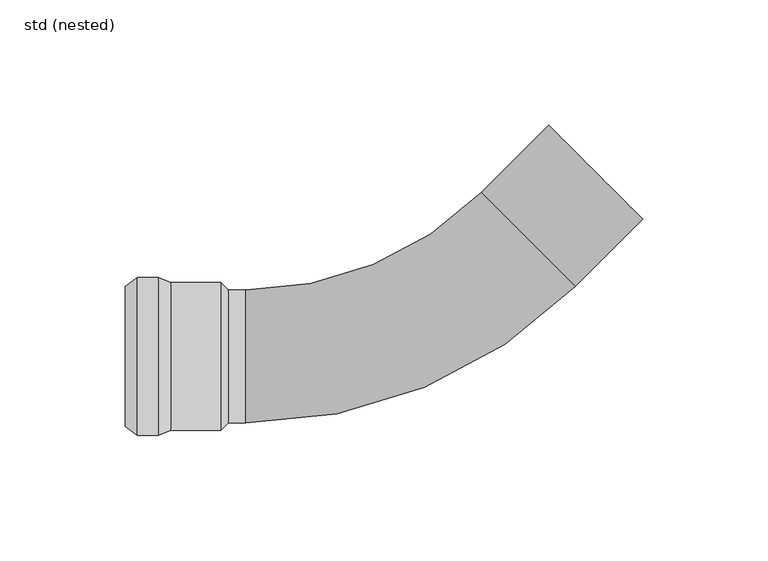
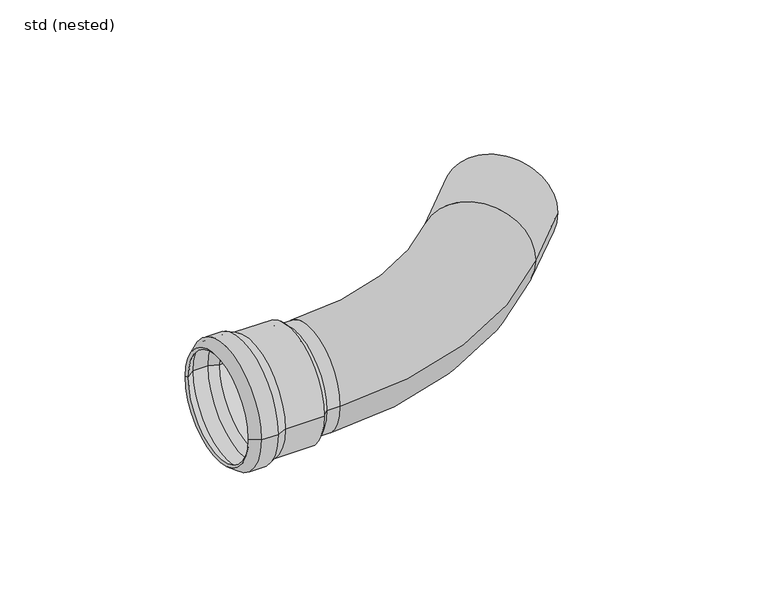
"""IFC4 building model written with IfcOpenShell, lengths in millimetres: pipe fitting geometry, ZZZ_do not use_PIF_ST_UN_GM-X pipe bend_ACO : std (nested)."""

from ifc_helpers import new_model, si_unit, point, frame, origin, place, context, project, spatial, polyline, circle_curve, ellipse_curve, trimmed, source, transform, mapped, element, save
from ifc_brep_helpers import plane_surface, cylinder_surface, revolved_surface, advanced_brep


def std_nested_89a7624e(model_context):
    return source(origin(), model_context, "Body", "AdvancedBrep", [
        advanced_brep(
        [(-100.8, 31.5, 0.0), (-100.8, -31.5, 0.0), (-109.2, -31.5, 0.0), (-109.2, 31.5, 0.0), (-96.0, 29.5, 0.0), (-96.0, -29.5, 0.0), (-114.0, -28.0, 0.0), (-114.0, 28.0, 0.0), (-76.0, 29.5, 0.0), (-76.0, -29.5, 0.0), (-73.0, 26.5, 0.0), (-73.0, -26.5, 0.0), (-76.0, 26.5, 0.0), (-76.0, -26.5, 0.0), (-96.3, 28.0, 0.0), (-96.3, -28.0, 0.0), (-76.0, -28.0, 0.0), (-76.0, 28.0, 0.0), (-101.1, 30.0, 0.0), (-101.1, -30.0, 0.0), (-108.7111977, 30.0, 0.0), (-108.7111977, -30.0, 0.0), (-113.1162418, 26.7879887, 0.0), (-113.1162418, -26.7879887, 0.0)],
        [
            (0, 1, circle_curve(frame((-100.8, 0.0, 0.0), z_axis=(-1.0, 0.0, 0.0), x_axis=(0.0, -1.0, 0.0)), 31.5)),
            (1, 2),
            (2, 3, circle_curve(frame((-109.2, 0.0, 0.0), z_axis=(1.0, 0.0, 0.0), x_axis=(0.0, -1.0, 0.0)), 31.5)),
            (3, 0),
            (1, 0, circle_curve(frame((-100.8, 0.0, 0.0), z_axis=(-1.0, 0.0, 0.0), x_axis=(0.0, -1.0, 0.0)), 31.5)),
            (3, 2, circle_curve(frame((-109.2, 0.0, 0.0), z_axis=(1.0, 0.0, 0.0), x_axis=(0.0, -1.0, 0.0)), 31.5)),
            (4, 5, circle_curve(frame((-96.0, 0.0, 0.0), z_axis=(-1.0, 0.0, 0.0), x_axis=(0.0, -1.0, 0.0)), 29.5)),
            (5, 1),
            (0, 4),
            (5, 4, circle_curve(frame((-96.0, 0.0, 0.0), z_axis=(-1.0, 0.0, 0.0), x_axis=(0.0, -1.0, 0.0)), 29.5)),
            (2, 6),
            (6, 7, circle_curve(frame((-114.0, 0.0, 0.0), z_axis=(1.0, 0.0, 0.0), x_axis=(0.0, -1.0, 0.0)), 28.0)),
            (7, 3),
            (7, 6, circle_curve(frame((-114.0, 0.0, 0.0), z_axis=(1.0, 0.0, 0.0), x_axis=(0.0, -1.0, 0.0)), 28.0)),
            (8, 9, circle_curve(frame((-76.0, 0.0, 0.0), z_axis=(-1.0, 0.0, 0.0), x_axis=(0.0, -1.0, 0.0)), 29.5)),
            (9, 5),
            (4, 8),
            (9, 8, circle_curve(frame((-76.0, 0.0, 0.0), z_axis=(-1.0, 0.0, 0.0), x_axis=(0.0, -1.0, 0.0)), 29.5)),
            (10, 11, circle_curve(frame((-73.0, 0.0, 0.0), z_axis=(-1.0, 0.0, 0.0), x_axis=(0.0, -1.0, 0.0)), 26.5)),
            (11, 9),
            (8, 10),
            (11, 10, circle_curve(frame((-73.0, 0.0, 0.0), z_axis=(-1.0, 0.0, 0.0), x_axis=(0.0, -1.0, 0.0)), 26.5)),
            (12, 13, circle_curve(frame((-76.0, 0.0, 0.0), z_axis=(-1.0, 0.0, 0.0), x_axis=(0.0, -1.0, 0.0)), 26.5)),
            (13, 11),
            (10, 12),
            (13, 12, circle_curve(frame((-76.0, 0.0, 0.0), z_axis=(-1.0, 0.0, 0.0), x_axis=(0.0, -1.0, 0.0)), 26.5)),
            (14, 15, circle_curve(frame((-96.3, 0.0, 0.0), z_axis=(-1.0, 0.0, 0.0), x_axis=(0.0, -1.0, 0.0)), 28.0)),
            (15, 16),
            (16, 17, circle_curve(frame((-76.0, 0.0, 0.0), z_axis=(1.0, 0.0, 0.0), x_axis=(0.0, -1.0, 0.0)), 28.0)),
            (17, 14),
            (15, 14, circle_curve(frame((-96.3, 0.0, 0.0), z_axis=(-1.0, 0.0, 0.0), x_axis=(0.0, -1.0, 0.0)), 28.0)),
            (17, 16, circle_curve(frame((-76.0, 0.0, 0.0), z_axis=(1.0, 0.0, 0.0), x_axis=(0.0, -1.0, 0.0)), 28.0)),
            (18, 19, circle_curve(frame((-101.1, 0.0, 0.0), z_axis=(-1.0, 0.0, 0.0), x_axis=(0.0, -1.0, 0.0)), 30.0)),
            (19, 15),
            (14, 18),
            (19, 18, circle_curve(frame((-101.1, 0.0, 0.0), z_axis=(-1.0, 0.0, 0.0), x_axis=(0.0, -1.0, 0.0)), 30.0)),
            (20, 21, circle_curve(frame((-108.7111977, 0.0, 0.0), z_axis=(-1.0, 0.0, 0.0), x_axis=(0.0, -1.0, 0.0)), 30.0)),
            (21, 19),
            (18, 20),
            (21, 20, circle_curve(frame((-108.7111977, 0.0, 0.0), z_axis=(-1.0, 0.0, 0.0), x_axis=(0.0, -1.0, 0.0)), 30.0)),
            (22, 23, circle_curve(frame((-113.1162418, 0.0, 0.0), z_axis=(-1.0, 0.0, 0.0), x_axis=(0.0, -1.0, 0.0)), 26.7879887)),
            (23, 21),
            (20, 22),
            (23, 22, circle_curve(frame((-113.1162418, 0.0, 0.0), z_axis=(-1.0, 0.0, 0.0), x_axis=(0.0, -1.0, 0.0)), 26.7879887)),
            (6, 23),
            (22, 7),
            (16, 13),
            (12, 17),
        ],
        [
            cylinder_surface(frame((-110.6444117, 0.0, 0.0), z_axis=(1.0, 0.0, 0.0), x_axis=(0.0, -1.0, 0.0)), 31.5),
            revolved_surface(polyline([(-100.8, -31.5, 0.0), (-96.0, -29.5, 0.0)]), (-110.6444117, 0.0, 0.0), (1.0, 0.0, 0.0)),
            revolved_surface(polyline([(-114.0, -28.0, 0.0), (-109.2, -31.5, 0.0)]), (-110.6444117, 0.0, 0.0), (1.0, 0.0, 0.0)),
            cylinder_surface(frame((-110.6444117, 0.0, 0.0), z_axis=(1.0, 0.0, 0.0), x_axis=(0.0, -1.0, 0.0)), 29.5),
            revolved_surface(polyline([(-76.0, -29.5, 0.0), (-73.0, -26.5, 0.0)]), (-110.6444117, 0.0, 0.0), (1.0, 0.0, 0.0)),
            revolved_surface(polyline([(-73.0, -26.5, 0.0), (-76.0, -26.5, 0.0)]), (-110.6444117, 0.0, 0.0), (1.0, 0.0, 0.0)),
            revolved_surface(polyline([(-76.0, -28.0, 0.0), (-96.3, -28.0, 0.0)]), (-110.6444117, 0.0, 0.0), (1.0, 0.0, 0.0)),
            revolved_surface(polyline([(-96.3, -28.0, 0.0), (-101.1, -30.0, 0.0)]), (-110.6444117, 0.0, 0.0), (1.0, 0.0, 0.0)),
            revolved_surface(polyline([(-101.1, -30.0, 0.0), (-108.7111977, -30.0, 0.0)]), (-110.6444117, 0.0, 0.0), (1.0, 0.0, 0.0)),
            revolved_surface(polyline([(-108.7111977, -30.0, 0.0), (-113.1162418, -26.7879887, 0.0)]), (-110.6444117, 0.0, 0.0), (1.0, 0.0, 0.0)),
            revolved_surface(polyline([(-113.1162418, -26.7879887, 0.0), (-114.0, -28.0, 0.0)]), (-110.6444117, 0.0, 0.0), (1.0, 0.0, 0.0)),
            plane_surface(frame((-76.0, 0.0, 0.0), z_axis=(-1.0, 0.0, 0.0), x_axis=(0.0, -1.0, 0.0))),
        ],
        [
            (0, [[1, 2, 3, 4]]),
            (0, [[5, -4, 6, -2]]),
            (1, [[7, 8, -1, 9]]),
            (1, [[10, -9, -5, -8]]),
            (2, [[-3, 11, 12, 13]]),
            (2, [[-6, -13, 14, -11]]),
            (3, [[15, 16, -7, 17]]),
            (3, [[18, -17, -10, -16]]),
            (4, [[19, 20, -15, 21]]),
            (4, [[22, -21, -18, -20]]),
            (5, [[23, 24, -19, 25]]),
            (5, [[26, -25, -22, -24]]),
            (6, [[27, 28, 29, 30]]),
            (6, [[31, -30, 32, -28]]),
            (7, [[33, 34, -27, 35]]),
            (7, [[36, -35, -31, -34]]),
            (8, [[37, 38, -33, 39]]),
            (8, [[40, -39, -36, -38]]),
            (9, [[41, 42, -37, 43]]),
            (9, [[44, -43, -40, -42]]),
            (10, [[-12, 45, -41, 46]]),
            (10, [[-14, -46, -44, -45]]),
            (11, [[-29, 47, -23, 48]]),
            (11, [[-32, -48, -26, -47]]),
        ],
    ),
        advanced_brep(
        [(27.9278382, 65.4086069, 0.0), (-66.0, 26.5, 0.0), (-66.0, -26.5, 0.0), (65.4061475, 27.9335975, 0.0), (46.6669929, 46.6711022, 26.5), (46.6669929, 46.6711022, -26.5), (-76.0, -26.5, 0.0), (-76.0, 26.5, 0.0), (92.2750222, 54.8048381, 0.0), (54.7967129, 92.2798475, 0.0)],
        [
            (0, 1, circle_curve(frame((-66.0, 159.3281749, 0.0), z_axis=(0.0, 0.0, -1.0), x_axis=(0.0, -1.0, 0.0)), 132.8281749)),
            (1, 2, circle_curve(frame((-66.0, 0.0, 0.0), z_axis=(1.0, 0.0, 0.0), x_axis=(0.0, 1.0, 0.0)), 26.5)),
            (2, 3, circle_curve(frame((-66.0, 159.3281749, 0.0), z_axis=(0.0, 0.0, 1.0), x_axis=(0.0, -1.0, 0.0)), 185.8281749)),
            (3, 4, circle_curve(frame((46.6669929, 46.6711022, 0.0), z_axis=(-0.7070756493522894, -0.7071379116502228, 0.0), x_axis=(-0.7071379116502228, 0.7070756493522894, 0.0)), 26.5)),
            (4, 0, circle_curve(frame((46.6669929, 46.6711022, 0.0), z_axis=(-0.7070756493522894, -0.7071379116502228, 0.0), x_axis=(-0.7071379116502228, 0.7070756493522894, 0.0)), 26.5)),
            (0, 5, circle_curve(frame((46.6669929, 46.6711022, 0.0), z_axis=(-0.7070756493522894, -0.7071379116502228, 0.0), x_axis=(-0.7071379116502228, 0.7070756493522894, 0.0)), 26.5)),
            (5, 3, circle_curve(frame((46.6669929, 46.6711022, 0.0), z_axis=(-0.7070756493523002, -0.707137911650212, 0.0), x_axis=(-0.707137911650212, 0.7070756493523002, 0.0)), 26.5)),
            (2, 1, circle_curve(frame((-66.0, 0.0, 0.0), z_axis=(1.0, 0.0, 0.0), x_axis=(0.0, 1.0, 0.0)), 26.5)),
            (6, 7, circle_curve(frame((-76.0, 0.0, 0.0), z_axis=(-1.0, 0.0, 0.0), x_axis=(0.0, 1.0, 0.0)), 26.5)),
            (7, 6, circle_curve(frame((-76.0, 0.0, 0.0), z_axis=(-1.0, 0.0, 0.0), x_axis=(0.0, 1.0, 0.0)), 26.5)),
            (7, 1),
            (2, 6),
            (8, 9, circle_curve(frame((73.5358675, 73.5423428, 0.0), z_axis=(0.7070756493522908, 0.7071379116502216, 0.0), x_axis=(-0.7071379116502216, 0.7070756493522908, 0.0)), 26.5)),
            (9, 8, circle_curve(frame((73.5358675, 73.5423428, 0.0), z_axis=(0.7070756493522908, 0.7071379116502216, 0.0), x_axis=(-0.7071379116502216, 0.7070756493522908, 0.0)), 26.5)),
            (9, 0),
            (3, 8),
        ],
        [
            revolved_surface(trimmed(ellipse_curve(frame((-66.0, 0.0, 0.0), z_axis=(-1.0, 0.0, 0.0), x_axis=(0.0, 1.0, 0.0)), 26.5, 26.5), [point((-66.0, -26.5, 0.0))], [point((-66.0, 26.5, 0.0))], True, "CARTESIAN"), (-66.0, 159.3281749, 0.0), (0.0, 0.0, 1.0)),
            revolved_surface(trimmed(ellipse_curve(frame((-66.0, 0.0, 0.0), z_axis=(-1.0, 0.0, 0.0), x_axis=(0.0, 1.0, 0.0)), 26.5, 26.5), [point((-66.0, 26.5, 0.0))], [point((-66.0, -26.5, 0.0))], True, "CARTESIAN"), (-66.0, 159.3281749, 0.0), (0.0, 0.0, 1.0)),
            plane_surface(frame((-76.0, 26.5, 0.0), z_axis=(-1.0, 0.0, 0.0), x_axis=(0.0, 0.0, -1.0))),
            cylinder_surface(frame((-76.0, 0.0, 0.0), z_axis=(1.0, 0.0, 0.0), x_axis=(0.0, 1.0, 0.0)), 26.5),
            plane_surface(frame((73.5358675, 73.5423428, 0.0), z_axis=(0.7070756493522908, 0.7071379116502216, 0.0), x_axis=(0.0, 0.0, 1.0))),
            cylinder_surface(frame((46.6669929, 46.6711022, 0.0), z_axis=(-0.7070756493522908, -0.7071379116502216, 0.0), x_axis=(-0.7071379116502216, 0.7070756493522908, 0.0)), 26.5),
        ],
        [
            (0, [[1, 2, 3, 4, 5]]),
            (1, [[-1, 6, 7, -3, 8]]),
            (2, [[9, 10]]),
            (3, [[-10, 11, -8, 12]]),
            (3, [[-9, -12, -2, -11]]),
            (4, [[13, 14]]),
            (5, [[-14, 15, -5, -4, 16]]),
            (5, [[-13, -16, -7, -6, -15]]),
        ],
    ),
    ])


if __name__ == "__main__":
    model = new_model("IFC4")
    model_context = context("Model", 3, world=origin())
    ifc_project = project(units=[si_unit("LENGTHUNIT", "METRE", prefix="MILLI")], contexts=[model_context])
    site = spatial("IfcSite", under=ifc_project)
    building = spatial("IfcBuilding", under=site)
    placement = place(None, origin())
    std_nested_shape = std_nested_89a7624e(model_context)
    element("IfcPipeFitting", 1, ObjectType="ZZZ_do not use_PIF_ST_UN_GM-X pipe bend_ACO : std (nested)", at=placement, inside=building, context=model_context, shape_type="MappedRepresentation", body=[
        mapped(std_nested_shape, transform((0.0, 0.0, 0.0), x_axis=(1.0, 0.0, 0.0), y_axis=(0.0, 1.0, 0.0), z_axis=(0.0, 0.0, 1.0))),
    ])
    save(model, "model.ifc")
